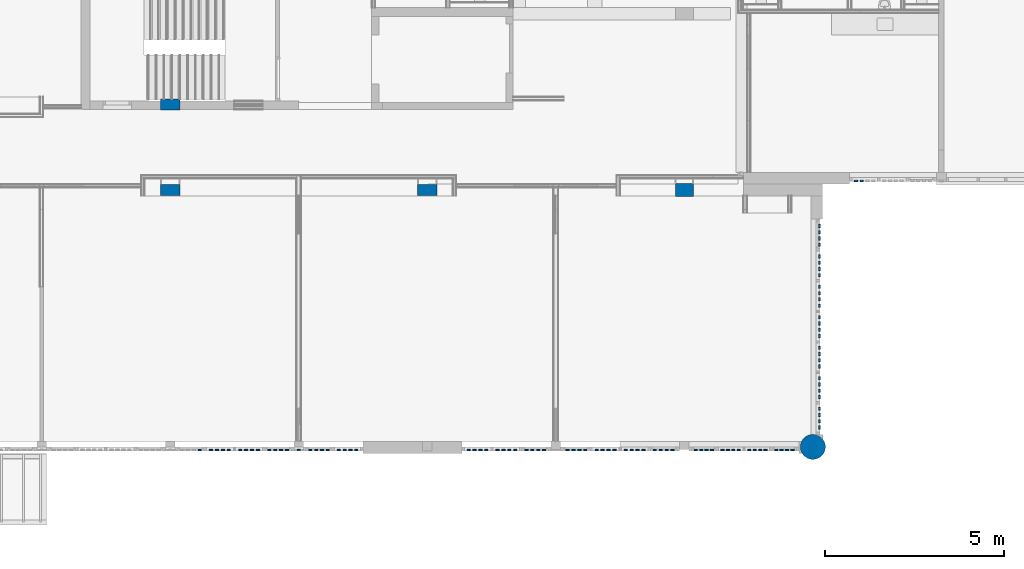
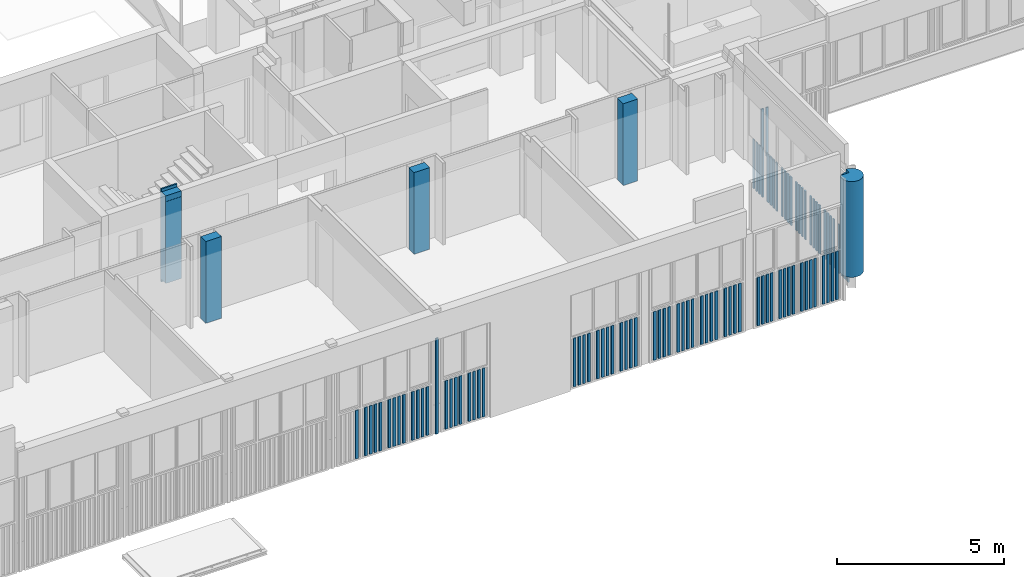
# One storey, part 14 of 117: 101 columns.
"""IFC2X3 building model written with IfcOpenShell, lengths in millimetres."""

from ifc_helpers import new_model, entity, si_unit, converted_unit, derived_unit, money_unit, direction, frame, origin_with_axes, place, context, subcontext, project, spatial, faceted_brep, material, type_object, element, save


model = new_model("IFC2X3")

# Units and contexts
model_context = context("Model", 3, precision=0.01, world=origin_with_axes(), true_north=direction((0.0, 1.0)))
body_context = subcontext(model_context, "Body", "Model", "MODEL_VIEW")
ifc_project = project(units=[si_unit("LENGTHUNIT", "METRE", prefix="MILLI"), si_unit("AREAUNIT", "SQUARE_METRE"), si_unit("VOLUMEUNIT", "CUBIC_METRE"), converted_unit("PLANEANGLEUNIT", "DEGREE", entity("IfcPlaneAngleMeasure", 0.0174532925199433), si_unit("PLANEANGLEUNIT", "RADIAN"), dimensions=[0, 0, 0, 0, 0, 0, 0]), money_unit("EUR"), converted_unit("TIMEUNIT", "Year", entity("IfcTimeMeasure", 31557600.0), si_unit("TIMEUNIT", "SECOND"), dimensions=[0, 0, 1, 0, 0, 0, 0]), si_unit("MASSUNIT", "GRAM", prefix="KILO"), si_unit("THERMODYNAMICTEMPERATUREUNIT", "DEGREE_CELSIUS"), si_unit("LUMINOUSINTENSITYUNIT", "LUMEN"), si_unit("ENERGYUNIT", "JOULE", prefix="MEGA"), derived_unit("THERMALCONDUCTANCEUNIT", [(si_unit("POWERUNIT", "WATT"), 1), (si_unit("LENGTHUNIT", "METRE"), -1), (si_unit("THERMODYNAMICTEMPERATUREUNIT", "KELVIN"), -1)]), derived_unit("SPECIFICHEATCAPACITYUNIT", [(si_unit("ENERGYUNIT", "JOULE"), 1), (si_unit("MASSUNIT", "GRAM", prefix="KILO"), -1), (si_unit("THERMODYNAMICTEMPERATUREUNIT", "KELVIN"), -1)]), derived_unit("MASSDENSITYUNIT", [(si_unit("MASSUNIT", "GRAM", prefix="KILO"), 1), (si_unit("VOLUMEUNIT", "CUBIC_METRE"), -1)])], contexts=[model_context])

# Site, building, storey
site_placement = place(None, origin_with_axes())
site = spatial("IfcSite", under=ifc_project, at=site_placement, Name="Site", CompositionType="ELEMENT")
building_placement = place(site_placement, origin_with_axes())
building = spatial("IfcBuilding", under=site, at=building_placement, Name="Naam gebouw", CompositionType="ELEMENT")
storey_placement = place(building_placement, frame((0.0, 0.0, 4150.0), z_axis=(0.0, 0.0, 1.0), x_axis=(1.0, 0.0, 0.0)))
storey = spatial("IfcBuildingStorey", under=building, at=storey_placement, Name="1e verdieping N", CompositionType="ELEMENT", Elevation=4150.0)

# Columns
ifc_material_1 = material(Name="Metaal - Staal C")
column_type_1 = type_object("IfcColumnType", Name="Metaal - Staal C 90 x 44", PredefinedType="COLUMN")
for number, where, z_axis, x_axis, name in (
    (1, (24871.79800084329, 3207.668707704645, -993.0000000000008), (0.0, 0.0, 1.0), (1.0, 0.0, 0.0), "_Kolom-x"),
    (2, (24542.06026818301, 3207.668707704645, -993.0000000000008), (0.0, 0.0, 1.0), (1.0, 0.0, 0.0), "_Kolom-x"),
    (3, (24377.19140185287, 3207.668707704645, -993.0000000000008), (0.0, 0.0, 1.0), (1.0, 0.0, 0.0), "_Kolom-x"),
    (4, (24706.92913451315, 3207.668707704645, -993.0000000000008), (0.0, 0.0, 1.0), (1.0, 0.0, 0.0), "_Kolom-x"),
    (5, (24062.88810235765, 3207.668707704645, -993.0000000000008), (0.0, 0.0, 1.0), (1.0, 0.0, 0.0), "_Kolom-x"),
    (6, (23898.01923602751, 3207.668707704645, -993.0000000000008), (0.0, 0.0, 1.0), (1.0, 0.0, 0.0), "_Kolom-x"),
    (7, (23733.15036969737, 3207.668707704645, -993.0000000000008), (0.0, 0.0, 1.0), (1.0, 0.0, 0.0), "_Kolom-x"),
    (8, (23568.28150336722, 3207.668707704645, -993.0000000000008), (0.0, 0.0, 1.0), (1.0, 0.0, 0.0), "_Kolom-x"),
    (9, (23253.97820387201, 3207.668707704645, -993.0000000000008), (0.0, 0.0, 1.0), (1.0, 0.0, 0.0), "_Kolom-x"),
    (10, (23089.10933754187, 3207.668707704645, -993.0000000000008), (0.0, 0.0, 1.0), (1.0, 0.0, 0.0), "_Kolom-x"),
    (11, (22924.24047121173, 3207.668707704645, -993.0000000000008), (0.0, 0.0, 1.0), (1.0, 0.0, 0.0), "_Kolom-x"),
    (12, (25529.03636801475, 3207.668707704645, -993.0000000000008), (0.0, 0.0, 1.0), (1.0, 0.0, 0.0), "_Kolom-x"),
    (13, (22759.37160488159, 3207.668707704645, -993.0000000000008), (0.0, 0.0, 1.0), (1.0, 0.0, 0.0), "_Kolom-x"),
    (14, (25695.15199124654, 3207.668707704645, -993.0000000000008), (0.0, 0.0, 1.0), (1.0, 0.0, 0.0), "_Kolom-x"),
    (15, (25861.26761447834, 3207.668707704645, -993.0000000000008), (0.0, 0.0, 1.0), (1.0, 0.0, 0.0), "_Kolom-x"),
    (16, (26027.38323771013, 3207.668707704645, -993.0000000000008), (0.0, 0.0, 1.0), (1.0, 0.0, 0.0), "_Kolom-x"),
    (17, (26343.55667255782, 3207.668707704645, -993.0000000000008), (0.0, 0.0, 1.0), (1.0, 0.0, 0.0), "_Kolom-x"),
    (18, (26509.67229578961, 3207.668707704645, -993.0000000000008), (0.0, 0.0, 1.0), (1.0, 0.0, 0.0), "_Kolom-x"),
    (19, (26675.78791902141, 3207.668707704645, -993.0000000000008), (0.0, 0.0, 1.0), (1.0, 0.0, 0.0), "_Kolom-x"),
    (20, (26841.9035422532, 3207.668707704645, -993.0000000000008), (0.0, 0.0, 1.0), (1.0, 0.0, 0.0), "_Kolom-x"),
    (21, (27158.07697710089, 3207.668707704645, -993.0000000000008), (0.0, 0.0, 1.0), (1.0, 0.0, 0.0), "_Kolom-x"),
    (22, (27324.19260033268, 3207.668707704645, -993.0000000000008), (0.0, 0.0, 1.0), (1.0, 0.0, 0.0), "_Kolom-x"),
    (23, (27656.42384679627, 3207.668707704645, -993.0000000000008), (0.0, 0.0, 1.0), (1.0, 0.0, 0.0), "_Kolom-x"),
    (24, (27490.30822356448, 3207.668707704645, -993.0000000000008), (0.0, 0.0, 1.0), (1.0, 0.0, 0.0), "_Kolom-x"),
    (25, (27972.59728164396, 3207.668707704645, -993.0000000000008), (0.0, 0.0, 1.0), (1.0, 0.0, 0.0), "_Kolom-x"),
    (26, (28138.71290487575, 3207.668707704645, -993.0000000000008), (0.0, 0.0, 1.0), (1.0, 0.0, 0.0), "_Kolom-x"),
    (27, (28304.82852810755, 3207.668707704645, -993.0000000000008), (0.0, 0.0, 1.0), (1.0, 0.0, 0.0), "_Kolom-x"),
    (28, (28470.94415133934, 3207.668707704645, -993.0000000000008), (0.0, 0.0, 1.0), (1.0, 0.0, 0.0), "_Kolom-x"),
    (29, (29118.48920209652, 3207.668707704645, -993.0000000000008), (0.0, 0.0, 1.0), (1.0, 0.0, 0.0), "_Kolom-x"),
    (30, (29270.43364654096, 3207.668707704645, -993.0000000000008), (0.0, 0.0, 1.0), (1.0, 0.0, 0.0), "_Kolom-x"),
    (31, (29422.3780909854, 3207.668707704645, -993.0000000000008), (0.0, 0.0, 1.0), (1.0, 0.0, 0.0), "_Kolom-x"),
    (32, (29574.32253542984, 3207.668707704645, -993.0000000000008), (0.0, 0.0, 1.0), (1.0, 0.0, 0.0), "_Kolom-x"),
    (33, (29869.2392020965, 3207.668707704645, -993.0000000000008), (0.0, 0.0, 1.0), (1.0, 0.0, 0.0), "_Kolom-x"),
    (34, (30021.18364654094, 3207.668707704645, -993.0000000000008), (0.0, 0.0, 1.0), (1.0, 0.0, 0.0), "_Kolom-x"),
    (35, (30173.12809098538, 3207.668707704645, -993.0000000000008), (0.0, 0.0, 1.0), (1.0, 0.0, 0.0), "_Kolom-x"),
    (36, (30325.07253542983, 3207.668707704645, -993.0000000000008), (0.0, 0.0, 1.0), (1.0, 0.0, 0.0), "_Kolom-x"),
    (37, (30619.98920209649, 3207.668707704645, -993.0000000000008), (0.0, 0.0, 1.0), (1.0, 0.0, 0.0), "_Kolom-x"),
    (38, (30771.93364654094, 3207.668707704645, -993.0000000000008), (0.0, 0.0, 1.0), (1.0, 0.0, 0.0), "_Kolom-x"),
    (39, (30923.87809098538, 3207.668707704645, -993.0000000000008), (0.0, 0.0, 1.0), (1.0, 0.0, 0.0), "_Kolom-x"),
    (40, (31075.82253542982, 3207.668707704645, -993.0000000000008), (0.0, 0.0, 1.0), (1.0, 0.0, 0.0), "_Kolom-x"),
    (41, (31370.73920209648, 3207.668707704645, -993.0000000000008), (0.0, 0.0, 1.0), (1.0, 0.0, 0.0), "_Kolom-x"),
    (42, (31522.68364654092, 3207.668707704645, -993.0000000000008), (0.0, 0.0, 1.0), (1.0, 0.0, 0.0), "_Kolom-x"),
    (43, (19611.17837446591, 3207.668707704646, -993.0000000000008), (0.0, 0.0, 1.0), (1.0, 0.0, 0.0), "_Kolom-x"),
    (44, (31826.5725354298, 3207.668707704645, -993.0000000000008), (0.0, 0.0, 1.0), (1.0, 0.0, 0.0), "_Kolom-x"),
    (45, (19286.39157244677, 3207.668707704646, -993.0000000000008), (0.0, 0.0, 1.0), (1.0, 0.0, 0.0), "_Kolom-x"),
    (46, (31674.62809098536, 3207.668707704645, -993.0000000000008), (0.0, 0.0, 1.0), (1.0, 0.0, 0.0), "_Kolom-x"),
    (47, (18813.40806992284, 3207.668707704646, -993.0000000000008), (0.0, 0.0, 1.0), (1.0, 0.0, 0.0), "_Kolom-x"),
    (48, (18651.01466891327, 3207.668707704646, -993.0000000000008), (0.0, 0.0, 1.0), (1.0, 0.0, 0.0), "_Kolom-x"),
    (49, (19448.78497345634, 3207.668707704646, -993.0000000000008), (0.0, 0.0, 1.0), (1.0, 0.0, 0.0), "_Kolom-x"),
    (50, (19123.9981714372, 3207.668707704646, -993.0000000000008), (0.0, 0.0, 1.0), (1.0, 0.0, 0.0), "_Kolom-x"),
    (51, (18326.22786689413, 3207.668707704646, -993.0000000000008), (0.0, 0.0, 1.0), (1.0, 0.0, 0.0), "_Kolom-x"),
    (52, (18488.62126790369, 3207.668707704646, -993.0000000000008), (0.0, 0.0, 1.0), (1.0, 0.0, 0.0), "_Kolom-x"),
):
    element("IfcColumn", number, at=place(storey_placement, frame(where, z_axis=z_axis, x_axis=x_axis)), inside=storey, type_object=column_type_1, material=ifc_material_1, Name=name, ObjectType="COLUMN", context=body_context, shape_type="Brep", body=[
        faceted_brep([(-45.00000000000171, -21.9999999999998, 1776.000000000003), (-45.00000000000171, -21.9999999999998, 0.0), (45.00000000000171, -21.9999999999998, 0.0), (45.00000000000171, -21.9999999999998, 1776.000000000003), (-45.00000000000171, 21.9999999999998, 1776.000000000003), (-45.00000000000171, 21.9999999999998, 0.0), (45.00000000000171, 21.9999999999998, 0.0), (45.00000000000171, 21.9999999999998, 1776.000000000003)], [[[0, 1, 2, 3]], [[4, 5, 1, 0]], [[2, 1, 5, 6]], [[3, 2, 6, 7]], [[4, 0, 3, 7]], [[7, 6, 5, 4]]]),
    ])
column_1_placement = place(storey_placement, frame((18000.0, 3207.668707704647, -1060.0), z_axis=(0.0, 0.0, 1.0), x_axis=(1.0, 0.0, 0.0)))
element("IfcColumn", 53, at=column_1_placement, inside=storey, type_object=column_type_1, material=ifc_material_1, Name="_Kolom-x", ObjectType="COLUMN", context=body_context, shape_type="Brep", body=[
    faceted_brep([(45.00000000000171, -21.9999999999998, 17.63441479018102), (45.00000000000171, -17.0097359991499, 18.51433297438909), (45.00000000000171, -17.0097359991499, 28.51433297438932), (45.00000000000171, -15.00973599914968, 28.51433297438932), (45.00000000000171, -15.00973599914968, 16.83613371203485), (45.00000000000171, -21.9999999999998, 15.60356156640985), (45.00000000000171, -21.9999999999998, 0.0), (45.00000000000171, 21.9999999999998, 0.0), (45.00000000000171, 21.9999999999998, 3500.000000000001), (45.00000000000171, -21.9999999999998, 3500.000000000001), (-45.00000000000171, -17.0097359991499, 18.51433297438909), (-45.00000000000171, -21.9999999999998, 17.63441479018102), (-45.00000000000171, -17.0097359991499, 28.51433297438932), (-45.00000000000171, -15.00973599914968, 28.51433297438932), (-45.00000000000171, -15.00973599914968, 16.83613371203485), (-45.00000000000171, -21.9999999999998, 15.60356156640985), (-45.00000000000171, -21.9999999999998, 0.0), (-45.00000000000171, 21.9999999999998, 0.0), (-45.00000000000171, 21.9999999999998, 3500.000000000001), (-45.00000000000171, -21.9999999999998, 3500.000000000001)], [[[0, 1, 2, 3, 4, 5, 6, 7, 8, 9]], [[10, 1, 0, 11]], [[12, 2, 1, 10]], [[13, 3, 2, 12]], [[14, 4, 3, 13]], [[15, 5, 4, 14]], [[6, 5, 15, 16]], [[7, 6, 16, 17]], [[18, 8, 7, 17]], [[8, 18, 19, 9]], [[19, 11, 0, 9]], [[12, 10, 11, 19, 18, 17, 16, 15, 14, 13]]]),
])
for number, where, z_axis, x_axis, name in (
    (54, (17670.86631725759, 3207.668707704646, -993.0000000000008), (0.0, 0.0, 1.0), (1.0, 0.0, 0.0), "_Kolom-x"),
    (55, (17338.64409503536, 3207.668707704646, -993.0000000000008), (0.0, 0.0, 1.0), (1.0, 0.0, 0.0), "_Kolom-x"),
    (56, (17504.75520614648, 3207.668707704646, -993.0000000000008), (0.0, 0.0, 1.0), (1.0, 0.0, 0.0), "_Kolom-x"),
    (57, (17172.53298392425, 3207.668707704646, -993.0000000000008), (0.0, 0.0, 1.0), (1.0, 0.0, 0.0), "_Kolom-x"),
    (58, (16856.36631725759, 3207.668707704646, -993.0000000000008), (0.0, 0.0, 1.0), (1.0, 0.0, 0.0), "_Kolom-x"),
    (59, (16690.25520614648, 3207.668707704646, -993.0000000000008), (0.0, 0.0, 1.0), (1.0, 0.0, 0.0), "_Kolom-x"),
    (60, (16524.14409503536, 3207.668707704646, -993.0000000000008), (0.0, 0.0, 1.0), (1.0, 0.0, 0.0), "_Kolom-x"),
    (61, (16358.03298392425, 3207.668707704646, -993.0000000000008), (0.0, 0.0, 1.0), (1.0, 0.0, 0.0), "_Kolom-x"),
):
    element("IfcColumn", number, at=place(storey_placement, frame(where, z_axis=z_axis, x_axis=x_axis)), inside=storey, type_object=column_type_1, material=ifc_material_1, Name=name, ObjectType="COLUMN", context=body_context, shape_type="Brep", body=[
        faceted_brep([(-45.00000000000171, -21.9999999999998, 1776.000000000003), (-45.00000000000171, -21.9999999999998, 0.0), (45.00000000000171, -21.9999999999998, 0.0), (45.00000000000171, -21.9999999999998, 1776.000000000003), (-45.00000000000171, 21.9999999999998, 1776.000000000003), (-45.00000000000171, 21.9999999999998, 0.0), (45.00000000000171, 21.9999999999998, 0.0), (45.00000000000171, 21.9999999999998, 1776.000000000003)], [[[0, 1, 2, 3]], [[4, 5, 1, 0]], [[2, 1, 5, 6]], [[3, 2, 6, 7]], [[4, 0, 3, 7]], [[7, 6, 5, 4]]]),
    ])
column_2_placement = place(storey_placement, frame((16041.86631725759, 3207.668707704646, -993.0000000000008), z_axis=(0.0, 0.0, 1.0), x_axis=(1.0, 0.0, 0.0)))
element("IfcColumn", 62, at=column_2_placement, inside=storey, type_object=column_type_1, material=ifc_material_1, Name="_Kolom-x", ObjectType="COLUMN", context=body_context, shape_type="Brep", body=[
    faceted_brep([(-44.99999999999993, -21.9999999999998, 1776.000000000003), (-44.99999999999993, -21.9999999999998, 0.0), (45.00000000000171, -21.9999999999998, 0.0), (45.00000000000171, -21.9999999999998, 1776.000000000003), (-44.99999999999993, 21.9999999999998, 1776.000000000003), (-44.99999999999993, 21.9999999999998, 0.0), (45.00000000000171, 21.9999999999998, 0.0), (45.00000000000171, 21.9999999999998, 1776.000000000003)], [[[0, 1, 2, 3]], [[4, 5, 1, 0]], [[2, 1, 5, 6]], [[3, 2, 6, 7]], [[4, 0, 3, 7]], [[7, 6, 5, 4]]]),
])
for number, where, z_axis, x_axis, name in (
    (63, (15875.75520614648, 3207.668707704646, -993.0000000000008), (0.0, 0.0, 1.0), (1.0, 0.0, 0.0), "_Kolom-x"),
    (64, (15543.53298392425, 3207.668707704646, -993.0000000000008), (0.0, 0.0, 1.0), (1.0, 0.0, 0.0), "_Kolom-x"),
    (65, (15227.36631725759, 3207.668707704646, -993.0000000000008), (0.0, 0.0, 1.0), (1.0, 0.0, 0.0), "_Kolom-x"),
    (66, (15709.64409503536, 3207.668707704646, -993.0000000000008), (0.0, 0.0, 1.0), (1.0, 0.0, 0.0), "_Kolom-x"),
):
    element("IfcColumn", number, at=place(storey_placement, frame(where, z_axis=z_axis, x_axis=x_axis)), inside=storey, type_object=column_type_1, material=ifc_material_1, Name=name, ObjectType="COLUMN", context=body_context, shape_type="Brep", body=[
        faceted_brep([(-44.99999999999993, -21.9999999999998, 1776.000000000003), (-44.99999999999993, -21.9999999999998, 0.0), (44.99999999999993, -21.9999999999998, 0.0), (44.99999999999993, -21.9999999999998, 1776.000000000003), (-44.99999999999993, 21.9999999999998, 1776.000000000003), (-44.99999999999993, 21.9999999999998, 0.0), (44.99999999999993, 21.9999999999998, 0.0), (44.99999999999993, 21.9999999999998, 1776.000000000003)], [[[0, 1, 2, 3]], [[4, 5, 1, 0]], [[2, 1, 5, 6]], [[3, 2, 6, 7]], [[4, 0, 3, 7]], [[7, 6, 5, 4]]]),
    ])
for number, where, z_axis, x_axis, name in (
    (67, (33610.16666666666, 10752.91242510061, -993.0000000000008), (0.0, 0.0, 1.0), (1.0, 0.0, 0.0), "_Kolom-x"),
    (68, (33771.05555555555, 10752.91242510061, -993.0000000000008), (0.0, 0.0, 1.0), (1.0, 0.0, 0.0), "_Kolom-x"),
):
    element("IfcColumn", number, at=place(storey_placement, frame(where, z_axis=z_axis, x_axis=x_axis)), inside=storey, type_object=column_type_1, material=ifc_material_1, Name=name, ObjectType="COLUMN", context=body_context, shape_type="Brep", body=[
        faceted_brep([(-45.00000000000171, -22.00000000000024, 1776.000000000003), (-45.00000000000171, -22.00000000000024, 0.0), (45.00000000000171, -22.00000000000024, 0.0), (45.00000000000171, -22.00000000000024, 1776.000000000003), (-45.00000000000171, 22.00000000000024, 1776.000000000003), (-45.00000000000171, 22.00000000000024, 0.0), (45.00000000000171, 22.00000000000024, 0.0), (45.00000000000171, 22.00000000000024, 1776.000000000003)], [[[0, 1, 2, 3]], [[4, 5, 1, 0]], [[2, 1, 5, 6]], [[3, 2, 6, 7]], [[4, 0, 3, 7]], [[7, 6, 5, 4]]]),
    ])
column_3_placement = place(storey_placement, frame((32583.47026007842, 4018.727467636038, -993.0000000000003), z_axis=(0.0, 0.0, 1.0), x_axis=(0.0, 1.0, 0.0)))
element("IfcColumn", 69, at=column_3_placement, inside=storey, type_object=column_type_1, material=ifc_material_1, Name="_Kolom-x", ObjectType="COLUMN", context=body_context, shape_type="Brep", body=[
    faceted_brep([(-44.99999999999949, -21.99999999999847, 1776.000000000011), (-44.99999999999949, -21.99999999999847, 0.0), (44.99999999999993, -21.99999999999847, 0.0), (44.99999999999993, -21.99999999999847, 1776.000000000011), (-44.99999999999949, 21.99999999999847, 1776.000000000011), (-44.99999999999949, 21.99999999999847, 0.0), (44.99999999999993, 21.99999999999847, 0.0), (44.99999999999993, 21.99999999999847, 1776.000000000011)], [[[0, 1, 2, 3]], [[4, 5, 1, 0]], [[2, 1, 5, 6]], [[3, 2, 6, 7]], [[4, 0, 3, 7]], [[7, 6, 5, 4]]]),
])
for number, where, z_axis, x_axis, name in (
    (70, (32583.47026007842, 4368.187785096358, -993.0000000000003), (0.0, 0.0, 1.0), (0.0, 1.0, 0.0), "_Kolom-x"),
    (71, (32583.47026007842, 4697.283023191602, -993.0000000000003), (0.0, 0.0, 1.0), (0.0, 1.0, 0.0), "_Kolom-x"),
    (72, (32583.47026007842, 4872.013181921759, -993.0000000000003), (0.0, 0.0, 1.0), (0.0, 1.0, 0.0), "_Kolom-x"),
    (73, (32583.47026007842, 4193.457626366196, -993.0000000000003), (0.0, 0.0, 1.0), (0.0, 1.0, 0.0), "_Kolom-x"),
    (74, (32583.47026007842, 5046.743340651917, -993.0000000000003), (0.0, 0.0, 1.0), (0.0, 1.0, 0.0), "_Kolom-x"),
    (75, (32583.47026007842, 5221.473499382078, -993.0000000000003), (0.0, 0.0, 1.0), (0.0, 1.0, 0.0), "_Kolom-x"),
    (76, (32583.47026007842, 3843.997308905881, -993.0000000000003), (0.0, 0.0, 1.0), (0.0, 1.0, 0.0), "_Kolom-x"),
    (77, (32583.47026007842, 5550.568737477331, -993.0000000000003), (0.0, 0.0, 1.0), (0.0, 1.0, 0.0), "_Kolom-x"),
    (78, (32583.47026007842, 5900.029054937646, -993.0000000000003), (0.0, 0.0, 1.0), (0.0, 1.0, 0.0), "_Kolom-x"),
    (79, (32583.47026007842, 6074.759213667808, -993.0000000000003), (0.0, 0.0, 1.0), (0.0, 1.0, 0.0), "_Kolom-x"),
    (80, (32583.47026007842, 6578.584610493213, -993.0000000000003), (0.0, 0.0, 1.0), (0.0, 1.0, 0.0), "_Kolom-x"),
    (81, (32583.47026007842, 6753.314769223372, -993.0000000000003), (0.0, 0.0, 1.0), (0.0, 1.0, 0.0), "_Kolom-x"),
    (82, (32583.47026007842, 6928.044927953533, -993.0000000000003), (0.0, 0.0, 1.0), (0.0, 1.0, 0.0), "_Kolom-x"),
    (83, (32583.47026007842, 7257.140166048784, -993.0000000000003), (0.0, 0.0, 1.0), (0.0, 1.0, 0.0), "_Kolom-x"),
    (84, (32583.47026007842, 7431.87032477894, -993.0000000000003), (0.0, 0.0, 1.0), (0.0, 1.0, 0.0), "_Kolom-x"),
    (85, (32583.47026007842, 7606.600483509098, -993.0000000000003), (0.0, 0.0, 1.0), (0.0, 1.0, 0.0), "_Kolom-x"),
    (86, (32583.47026007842, 7781.33064223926, -993.0000000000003), (0.0, 0.0, 1.0), (0.0, 1.0, 0.0), "_Kolom-x"),
    (87, (32583.47026007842, 8285.156039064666, -993.0000000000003), (0.0, 0.0, 1.0), (0.0, 1.0, 0.0), "_Kolom-x"),
    (88, (32583.47026007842, 8110.42588033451, -993.0000000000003), (0.0, 0.0, 1.0), (0.0, 1.0, 0.0), "_Kolom-x"),
    (89, (32583.47026007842, 8459.886197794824, -993.0000000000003), (0.0, 0.0, 1.0), (0.0, 1.0, 0.0), "_Kolom-x"),
    (90, (32583.47026007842, 8634.616356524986, -993.0000000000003), (0.0, 0.0, 1.0), (0.0, 1.0, 0.0), "_Kolom-x"),
    (91, (32583.47026007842, 8963.711594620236, -993.0000000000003), (0.0, 0.0, 1.0), (0.0, 1.0, 0.0), "_Kolom-x"),
    (92, (32583.47026007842, 9138.441753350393, -993.0000000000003), (0.0, 0.0, 1.0), (0.0, 1.0, 0.0), "_Kolom-x"),
    (93, (32583.47026007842, 9313.171912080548, -993.0000000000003), (0.0, 0.0, 1.0), (0.0, 1.0, 0.0), "_Kolom-x"),
    (94, (32583.47026007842, 9487.902070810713, -993.0000000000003), (0.0, 0.0, 1.0), (0.0, 1.0, 0.0), "_Kolom-x"),
    (95, (32583.47026007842, 5725.298896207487, -993.0000000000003), (0.0, 0.0, 1.0), (0.0, 1.0, 0.0), "_Kolom-x"),
    (96, (32583.47026007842, 6403.854451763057, -993.0000000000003), (0.0, 0.0, 1.0), (0.0, 1.0, 0.0), "_Kolom-x"),
):
    element("IfcColumn", number, at=place(storey_placement, frame(where, z_axis=z_axis, x_axis=x_axis)), inside=storey, type_object=column_type_1, material=ifc_material_1, Name=name, ObjectType="COLUMN", context=body_context, shape_type="Brep", body=[
        faceted_brep([(-44.99999999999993, -21.99999999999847, 1776.000000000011), (-44.99999999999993, -21.99999999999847, 0.0), (44.99999999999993, -21.99999999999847, 0.0), (44.99999999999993, -21.99999999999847, 1776.000000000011), (-44.99999999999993, 21.99999999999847, 1776.000000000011), (-44.99999999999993, 21.99999999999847, 0.0), (44.99999999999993, 21.99999999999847, 0.0), (44.99999999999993, 21.99999999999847, 1776.000000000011)], [[[0, 1, 2, 3]], [[4, 5, 1, 0]], [[2, 1, 5, 6]], [[3, 2, 6, 7]], [[4, 0, 3, 7]], [[7, 6, 5, 4]]]),
    ])
ifc_material_2 = material(Name="ALG - CONSTRUCTIEF")
column_type_2 = type_object("IfcColumnType", Name="ALG - CONSTRUCTIEF 500 x 355", PredefinedType="COLUMN")
column_4_placement = place(storey_placement, frame((28800.0, 10495.91242510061, -99.99999999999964), z_axis=(0.0, 0.0, 1.0), x_axis=(1.0, 0.0, 0.0)))
element("IfcColumn", 97, at=column_4_placement, inside=storey, type_object=column_type_2, material=ifc_material_2, Name="_Kolom-x", ObjectType="COLUMN", context=body_context, shape_type="Brep", body=[
    faceted_brep([(250.0, -177.500000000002, 3090.000000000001), (250.0, -177.500000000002, 99.99999999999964), (250.0, 177.500000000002, 99.99999999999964), (250.0, 177.500000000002, 3090.000000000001), (-250.0, -177.500000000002, 3090.000000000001), (-250.0, -177.500000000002, 99.99999999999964), (-250.0, 177.500000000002, 99.99999999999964), (-250.0, 177.500000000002, 3090.000000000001)], [[[0, 1, 2, 3]], [[4, 5, 1, 0]], [[5, 6, 2, 1]], [[3, 2, 6, 7]], [[4, 0, 3, 7]], [[7, 6, 5, 4]]]),
])
column_type_3 = type_object("IfcColumnType", Name="ALG - CONSTRUCTIEF D700", PredefinedType="COLUMN")
column_5_placement = place(storey_placement, frame((32399.99999999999, 3300.223631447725, -199.9999999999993), z_axis=(0.0, 0.0, 1.0), x_axis=(1.0, 0.0, 0.0)))
element("IfcColumn", 98, at=column_5_placement, inside=storey, type_object=column_type_3, material=ifc_material_2, Name="_Kolom-x", ObjectType="COLUMN", context=body_context, shape_type="Brep", body=[
    faceted_brep([(0.0, 349.9999999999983, 199.9999999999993), (0.0, 349.9999999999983, 3400.0), (0.0, 349.9999999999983, 3500.0), (49.81019339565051, 346.4375046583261, 3500.0), (49.81019339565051, 346.4375046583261, 0.0), (0.0, 349.9999999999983, 0.0), (-49.81019339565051, 346.4375046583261, 199.9999999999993), (-49.81019339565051, 346.4375046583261, 3400.0), (0.0, 145.4353402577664, 3400.0), (0.0, 145.4353402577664, 3500.0), (-318.3493099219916, 145.43534025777, 3500.0), (-318.3711983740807, 145.3952545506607, 3500.0), (-335.8225407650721, 98.60639489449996, 3500.0), (-346.4375046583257, 49.81019339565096, 3500.0), (-350.0000000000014, 0.0, 3500.0), (-346.4375046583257, -49.81019339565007, 3500.0), (-335.8225407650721, -98.60639489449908, 3500.0), (-318.3711983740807, -145.3952545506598, 3500.0), (-294.4387364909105, -189.2242861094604, 3500.0), (-264.5123510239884, -229.2012568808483, 3500.0), (-229.2012568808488, -264.5123510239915, 3500.0), (-189.2242861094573, -294.4387364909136, 3500.0), (-145.3952545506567, -318.3711983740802, 3500.0), (-98.60639489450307, -335.8225407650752, 3500.0), (-49.81019339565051, -346.4375046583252, 3500.0), (0.0, -350.000000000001, 3500.0), (49.81019339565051, -346.4375046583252, 3500.0), (98.60639489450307, -335.8225407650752, 3500.0), (145.3952545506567, -318.3711983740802, 3500.0), (189.2242861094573, -294.4387364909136, 3500.0), (229.2012568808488, -264.5123510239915, 3500.0), (264.5123510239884, -229.2012568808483, 3500.0), (294.4387364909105, -189.2242861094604, 3500.0), (318.3711983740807, -145.3952545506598, 3500.0), (335.8225407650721, -98.60639489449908, 3500.0), (346.4375046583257, -49.81019339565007, 3500.0), (350.0000000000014, 0.0, 3500.0), (346.4375046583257, 49.81019339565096, 3500.0), (335.8225407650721, 98.60639489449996, 3500.0), (318.3711983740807, 145.3952545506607, 3500.0), (294.4387364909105, 189.2242861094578, 3500.0), (264.5123510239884, 229.2012568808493, 3500.0), (229.2012568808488, 264.5123510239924, 3500.0), (189.2242861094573, 294.4387364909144, 3500.0), (145.3952545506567, 318.3711983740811, 3500.0), (98.60639489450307, 335.8225407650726, 3500.0), (98.60639489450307, 335.8225407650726, 0.0), (-318.2109138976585, 145.6887936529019, 0.0), (0.0, 145.6887936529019, 0.0), (145.3952545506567, 318.3711983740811, 0.0), (189.2242861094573, 294.4387364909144, 0.0), (229.2012568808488, 264.5123510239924, 0.0), (264.5123510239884, 229.2012568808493, 0.0), (294.4387364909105, 189.2242861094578, 0.0), (318.3711983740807, 145.3952545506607, 0.0), (335.8225407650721, 98.60639489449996, 0.0), (346.4375046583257, 49.81019339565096, 0.0), (350.0000000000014, 0.0, 0.0), (346.4375046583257, -49.81019339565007, 0.0), (335.8225407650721, -98.60639489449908, 0.0), (318.3711983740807, -145.3952545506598, 0.0), (294.4387364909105, -189.2242861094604, 0.0), (264.5123510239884, -229.2012568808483, 0.0), (229.2012568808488, -264.5123510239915, 0.0), (189.2242861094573, -294.4387364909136, 0.0), (145.3952545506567, -318.3711983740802, 0.0), (98.60639489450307, -335.8225407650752, 0.0), (49.81019339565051, -346.4375046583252, 0.0), (0.0, -350.000000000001, 0.0), (-49.81019339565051, -346.4375046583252, 0.0), (-98.60639489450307, -335.8225407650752, 0.0), (-145.3952545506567, -318.3711983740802, 0.0), (-189.2242861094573, -294.4387364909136, 0.0), (-229.2012568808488, -264.5123510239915, 0.0), (-264.5123510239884, -229.2012568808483, 0.0), (-294.4387364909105, -189.2242861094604, 0.0), (-318.3711983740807, -145.3952545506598, 0.0), (-335.8225407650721, -98.60639489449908, 0.0), (-346.4375046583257, -49.81019339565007, 0.0), (-350.0000000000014, 0.0, 0.0), (-346.4375046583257, 49.81019339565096, 0.0), (-335.8225407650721, 98.60639489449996, 0.0), (-318.3711983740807, 145.3952545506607, 0.0), (0.0, 145.6887936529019, 199.9999999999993), (-98.60639489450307, 335.8225407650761, 199.9999999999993), (-98.60639489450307, 335.8225407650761, 3400.0), (-145.3952545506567, 318.3711983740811, 3400.0), (-189.2242861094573, 294.4387364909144, 3400.0), (-229.2012568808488, 264.5123510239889, 3400.0), (-264.5123510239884, 229.2012568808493, 3400.0), (-294.4387364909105, 189.2242861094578, 3400.0), (-318.3493099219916, 145.4353402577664, 3400.0), (-318.2109138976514, 145.6887936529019, 199.9999999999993), (-294.4387364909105, 189.2242861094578, 199.9999999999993), (-264.5123510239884, 229.2012568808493, 199.9999999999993), (-229.2012568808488, 264.5123510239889, 199.9999999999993), (-189.2242861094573, 294.4387364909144, 199.9999999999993), (-145.3952545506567, 318.3711983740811, 199.9999999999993)], [[[0, 1, 2, 3, 4, 5]], [[6, 7, 1, 0]], [[8, 9, 2, 1]], [[2, 9, 10, 11, 12, 13, 14, 15, 16, 17, 18, 19, 20, 21, 22, 23, 24, 25, 26, 27, 28, 29, 30, 31, 32, 33, 34, 35, 36, 37, 38, 39, 40, 41, 42, 43, 44, 45, 3]], [[3, 45, 46, 4]], [[47, 48, 5, 4, 46, 49, 50, 51, 52, 53, 54, 55, 56, 57, 58, 59, 60, 61, 62, 63, 64, 65, 66, 67, 68, 69, 70, 71, 72, 73, 74, 75, 76, 77, 78, 79, 80, 81, 82]], [[83, 0, 5, 48]], [[84, 85, 7, 6]], [[8, 1, 7, 85, 86, 87, 88, 89, 90, 91]], [[84, 6, 0, 83, 92, 93, 94, 95, 96, 97]], [[91, 10, 9, 8]], [[10, 91, 90, 93, 92, 47, 82, 11]], [[12, 11, 82, 81]], [[13, 12, 81, 80]], [[14, 13, 80, 79]], [[15, 14, 79, 78]], [[16, 15, 78, 77]], [[17, 16, 77, 76]], [[18, 17, 76, 75]], [[19, 18, 75, 74]], [[20, 19, 74, 73]], [[21, 20, 73, 72]], [[22, 21, 72, 71]], [[23, 22, 71, 70]], [[24, 23, 70, 69]], [[25, 24, 69, 68]], [[26, 25, 68, 67]], [[27, 26, 67, 66]], [[28, 27, 66, 65]], [[29, 28, 65, 64]], [[30, 29, 64, 63]], [[31, 30, 63, 62]], [[32, 31, 62, 61]], [[33, 32, 61, 60]], [[34, 33, 60, 59]], [[35, 34, 59, 58]], [[36, 35, 58, 57]], [[37, 36, 57, 56]], [[38, 37, 56, 55]], [[39, 38, 55, 54]], [[40, 39, 54, 53]], [[41, 40, 53, 52]], [[42, 41, 52, 51]], [[43, 42, 51, 50]], [[44, 43, 50, 49]], [[45, 44, 49, 46]], [[83, 48, 47, 92]], [[97, 86, 85, 84]], [[96, 87, 86, 97]], [[95, 88, 87, 96]], [[94, 89, 88, 95]], [[93, 90, 89, 94]]]),
])
column_type_4 = type_object("IfcColumnType", Name="ALG - CONSTRUCTIEF 540 x 310", PredefinedType="COLUMN")
for number, where, z_axis, x_axis, name in (
    (99, (14400.0, 10495.91242510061, -99.99999999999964), (0.0, 0.0, 1.0), (1.0, 0.0, 0.0), "_Kolom-x"),
    (100, (21600.0, 10495.91242510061, -99.99999999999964), (0.0, 0.0, 1.0), (1.0, 0.0, 0.0), "_Kolom-x"),
):
    element("IfcColumn", number, at=place(storey_placement, frame(where, z_axis=z_axis, x_axis=x_axis)), inside=storey, type_object=column_type_4, material=ifc_material_2, Name=name, ObjectType="COLUMN", context=body_context, shape_type="Brep", body=[
        faceted_brep([(269.9999999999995, -155.0000000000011, 3090.000000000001), (269.9999999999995, -155.0000000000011, 99.99999999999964), (269.9999999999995, 155.0000000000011, 99.99999999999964), (269.9999999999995, 155.0000000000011, 3090.000000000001), (-269.9999999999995, -155.0000000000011, 3090.000000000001), (-269.9999999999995, -155.0000000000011, 99.99999999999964), (-269.9999999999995, 155.0000000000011, 99.99999999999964), (-269.9999999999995, 155.0000000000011, 3090.000000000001)], [[[0, 1, 2, 3]], [[4, 5, 1, 0]], [[5, 6, 2, 1]], [[3, 2, 6, 7]], [[4, 0, 3, 7]], [[7, 6, 5, 4]]]),
    ])
column_6_placement = place(storey_placement, frame((14400.0, 12895.91242510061, -99.99999999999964), z_axis=(0.0, 0.0, 1.0), x_axis=(1.0, 0.0, 0.0)))
element("IfcColumn", 101, at=column_6_placement, inside=storey, type_object=column_type_4, material=ifc_material_2, Name="_Kolom-x", ObjectType="COLUMN", context=body_context, shape_type="Brep", body=[
    faceted_brep([(-269.9999999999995, 154.9999999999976, 3400.0), (-269.9999999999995, 98.695614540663, 3400.0), (269.9999999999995, 98.695614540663, 3400.0), (269.9999999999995, 154.9999999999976, 3400.0), (-269.9999999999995, -151.304385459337, 3300.0), (-269.9999999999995, 98.695614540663, 3300.0), (-269.9999999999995, 154.9999999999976, 0.0), (-269.9999999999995, 98.695614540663, 0.0), (-269.9999999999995, 98.695614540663, 99.99999999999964), (-269.9999999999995, -154.9999999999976, 99.99999999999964), (-269.9999999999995, -154.9999999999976, 3090.000000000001), (-269.9999999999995, -151.304385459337, 3090.000000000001), (269.9999999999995, 98.695614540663, 3300.0), (269.9999999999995, -151.304385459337, 3300.0), (269.9999999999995, -151.304385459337, 3090.000000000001), (269.9999999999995, -154.9999999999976, 3090.000000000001), (269.9999999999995, -154.9999999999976, 99.99999999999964), (269.9999999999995, 98.695614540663, 99.99999999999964), (269.9999999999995, 98.695614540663, 0.0), (269.9999999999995, 154.9999999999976, 0.0)], [[[0, 1, 2, 3]], [[4, 5, 1, 0, 6, 7, 8, 9, 10, 11]], [[5, 12, 2, 1]], [[2, 12, 13, 14, 15, 16, 17, 18, 19, 3]], [[0, 3, 19, 6]], [[4, 13, 12, 5]], [[19, 18, 7, 6]], [[7, 18, 17, 8]], [[8, 17, 16, 9]], [[10, 9, 16, 15]], [[10, 15, 14, 11]], [[14, 13, 4, 11]]]),
])

save(model, "model.ifc")
